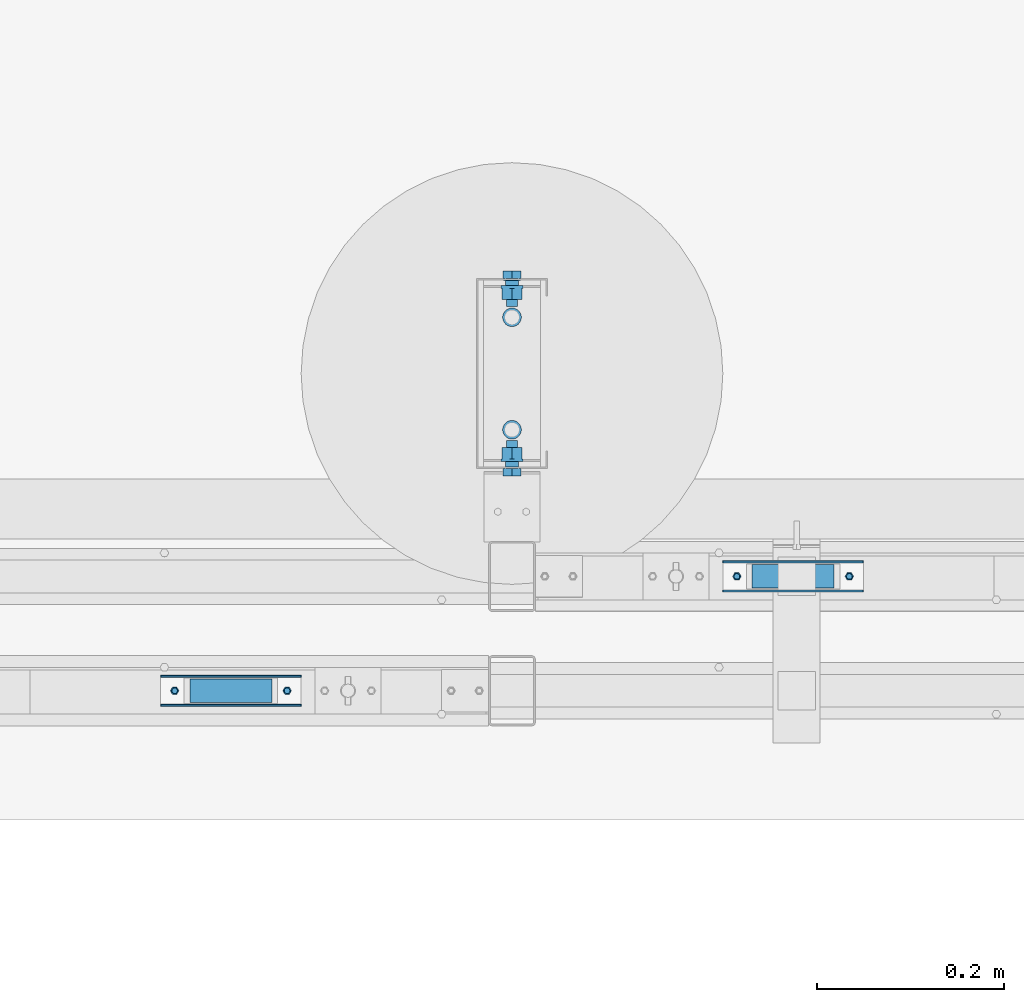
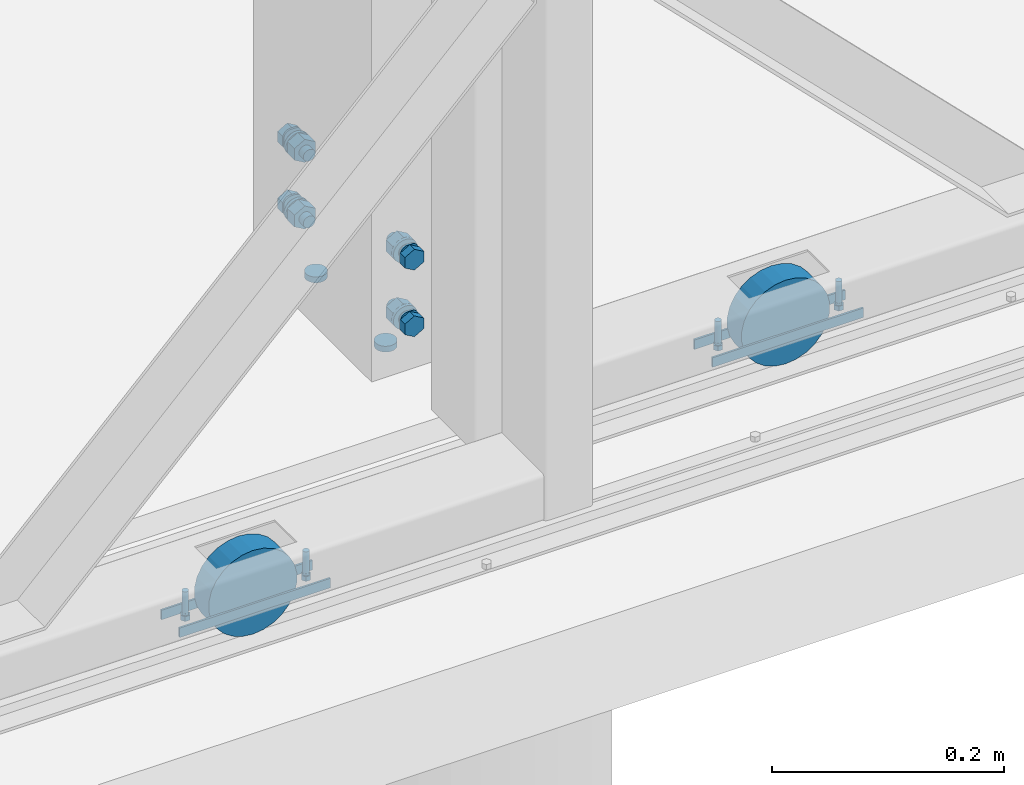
# One storey, part 19 of 91: 6 discrete accessories, 5 mechanical fasteners, 4 elements without a shape of their own.
"""IFC2X3 building model written with IfcOpenShell, lengths in millimetres."""

import ifcopenshell
import ifcopenshell.guid

model = None  # the IFC model being written
_history = None  # IfcOwnerHistory: only IFC2X3 demands one
_inside = {}  # id of a spatial element -> (the spatial element, [elements in it])
_under = {}  # id of a project, library or spatial element -> (it, [spatial elements below it])
_declared = {}  # id of a project -> (the project, [libraries it declares])
_typed = {}  # id of a type object -> (the type object, [elements of that type])
_made_of = {}  # id of a material, layer set ... -> (it, [elements and type objects made of it])


def new_model(schema):
    """Start an empty IFC model of exactly this schema.

    Asked for "IFC4X3", IfcOpenShell would pick the latest addendum, in which some entities
    have other attributes; the version numbers below select the first issue.
    IFC2X3 requires an IfcOwnerHistory on every rooted entity: one is made here for all.
    """
    global model, _history
    if schema == "IFC4X3":
        model = ifcopenshell.file(schema_version=(4, 3, 0, 0))
    else:
        model = ifcopenshell.file(schema=schema)
    _inside.clear()
    _under.clear()
    _declared.clear()
    _typed.clear()
    _made_of.clear()
    _history = None
    if model.schema == "IFC2X3":
        org = make("IfcOrganization", Name="unknown")
        user = make(
            "IfcPersonAndOrganization",
            ThePerson=make("IfcPerson", FamilyName="unknown"),
            TheOrganization=org,
        )
        app = make(
            "IfcApplication",
            ApplicationDeveloper=org,
            Version="unknown",
            ApplicationFullName="unknown",
            ApplicationIdentifier="unknown",
        )
        _history = make(
            "IfcOwnerHistory",
            OwningUser=user,
            OwningApplication=app,
            ChangeAction="ADDED",
            CreationDate=0,
        )
    return model


def make(cls, **values):
    """One entity of the class cls with the attributes given. An attribute that is None is left unset."""
    return model.create_entity(
        cls, **{name: value for name, value in values.items() if value is not None}
    )


def rooted(cls, **values):
    """An entity with a GlobalId (a new one), such as an element, a storey or a relation."""
    return make(cls, GlobalId=ifcopenshell.guid.new(), OwnerHistory=_history, **values)


def si_unit(unit_type, name, prefix=None):
    """IfcSIUnit, for example si_unit("LENGTHUNIT", "METRE", prefix="MILLI")."""
    return make("IfcSIUnit", UnitType=unit_type, Prefix=prefix, Name=name)


def assignment(units):
    """IfcUnitAssignment: the units of a project."""
    return None if units is None else make("IfcUnitAssignment", Units=units)


def point(xyz):
    """IfcCartesianPoint."""
    return None if xyz is None else make("IfcCartesianPoint", Coordinates=xyz)


def direction(xyz):
    """IfcDirection."""
    return None if xyz is None else make("IfcDirection", DirectionRatios=xyz)


def frame(location, z_axis=None, x_axis=None):
    """IfcAxis2Placement3D, a coordinate frame: its origin and axes. An axis left out is left unset."""
    return make(
        "IfcAxis2Placement3D",
        Location=point(location),
        Axis=direction(z_axis),
        RefDirection=direction(x_axis),
    )


def frame_2d(location, x_axis=None):
    """IfcAxis2Placement2D, a coordinate frame in the plane: its origin and x axis."""
    return make(
        "IfcAxis2Placement2D", Location=point(location), RefDirection=direction(x_axis)
    )


def origin_with_axes():
    """The frame at (0, 0, 0) with the z axis (0, 0, 1) and the x axis (1, 0, 0) written out."""
    return frame((0.0, 0.0, 0.0), z_axis=(0.0, 0.0, 1.0), x_axis=(1.0, 0.0, 0.0))


def origin_2d_with_axis():
    """The frame at (0, 0) in the plane with the x axis (1, 0) written out."""
    return frame_2d((0.0, 0.0), x_axis=(1.0, 0.0))


def place(relative_to, where):
    """IfcLocalPlacement: puts the frame where relative to a parent placement (None: the world)."""
    return make(
        "IfcLocalPlacement", PlacementRelTo=relative_to, RelativePlacement=where
    )


def context(
    kind, dimensions, precision=None, world=None, true_north=None, identifier=None
):
    """IfcGeometricRepresentationContext, for example the 3D "Model" context."""
    return make(
        "IfcGeometricRepresentationContext",
        ContextIdentifier=identifier,
        ContextType=kind,
        CoordinateSpaceDimension=dimensions,
        Precision=precision,
        WorldCoordinateSystem=world,
        TrueNorth=true_north,
    )


def subcontext(parent, identifier, kind, view, scale=None):
    """IfcGeometricRepresentationSubContext, for example "Body" below "Model"."""
    return make(
        "IfcGeometricRepresentationSubContext",
        ContextIdentifier=identifier,
        ContextType=kind,
        ParentContext=parent,
        TargetScale=scale,
        TargetView=view,
    )


def project(units=None, contexts=None):
    """IfcProject with its units and contexts."""
    return rooted(
        "IfcProject",
        Name="project",
        RepresentationContexts=contexts,
        UnitsInContext=assignment(units),
    )


def spatial(cls, under=None, at=None, **own):
    """A site, building, storey or space (cls), placed at a placement, below another one or the project."""
    s = rooted(cls, ObjectPlacement=at, **own)
    if under is not None:
        _under.setdefault(under.id(), (under, []))[1].append(s)
    return s


def polyline(points):
    """IfcPolyline through the points."""
    return make("IfcPolyline", Points=[point(p) for p in points])


def circle_curve(where, radius):
    """IfcCircle in the frame where."""
    return make("IfcCircle", Position=where, Radius=radius)


def parameter(value):
    """IfcParameterValue: where a trimmed curve begins or ends, as a parameter of its basis curve."""
    return model.create_entity("IfcParameterValue", value)


def trimmed(basis, trim1, trim2, sense, master):
    """IfcTrimmedCurve: the piece of a basis curve between two trims."""
    return make(
        "IfcTrimmedCurve",
        BasisCurve=basis,
        Trim1=trim1,
        Trim2=trim2,
        SenseAgreement=sense,
        MasterRepresentation=master,
    )


def segment(curve, same_sense, transition):
    """IfcCompositeCurveSegment."""
    return make(
        "IfcCompositeCurveSegment",
        Transition=transition,
        SameSense=same_sense,
        ParentCurve=curve,
    )


def composite_curve(segments, self_intersect=None):
    """IfcCompositeCurve: segments joined end to end."""
    return make("IfcCompositeCurve", Segments=segments, SelfIntersect=self_intersect)


def profile(cls, at=None, kind="AREA", **sizes):
    """A parametric profile (cls). Its sizes go by their IFC names, for example OverallWidth=200.0."""
    return make(cls, ProfileType=kind, Position=at, **sizes)


def circle(**sizes):
    """IfcCircleProfileDef."""
    return profile("IfcCircleProfileDef", **sizes)


def outline(outer, holes=None, kind="AREA"):
    """IfcArbitraryClosedProfileDef: a profile drawn as a closed curve; with holes, ...WithVoids."""
    if holes is None:
        return make("IfcArbitraryClosedProfileDef", ProfileType=kind, OuterCurve=outer)
    return make(
        "IfcArbitraryProfileDefWithVoids",
        ProfileType=kind,
        OuterCurve=outer,
        InnerCurves=holes,
    )


def extrude(swept, where, along, depth):
    """IfcExtrudedAreaSolid: the profile swept, set in the frame where, extruded along a direction by depth."""
    return make(
        "IfcExtrudedAreaSolid",
        SweptArea=swept,
        Position=where,
        ExtrudedDirection=direction(along),
        Depth=depth,
    )


def shape(context_of_items, identifier, shape_type, items):
    """IfcShapeRepresentation: the items that make up one representation, for example the "Body"."""
    return make(
        "IfcShapeRepresentation",
        ContextOfItems=context_of_items,
        RepresentationIdentifier=identifier,
        RepresentationType=shape_type,
        Items=items,
    )


def source(mapping_origin, context_of_items, identifier, shape_type, items):
    """IfcRepresentationMap: a shape defined once, which mapped items show again and again."""
    return make(
        "IfcRepresentationMap",
        MappingOrigin=mapping_origin,
        MappedRepresentation=shape(context_of_items, identifier, shape_type, items),
    )


def transform(
    local_origin,
    x_axis=None,
    y_axis=None,
    z_axis=None,
    scale=None,
    scale2=None,
    scale3=None,
    uniform=True,
):
    """IfcCartesianTransformationOperator3D, or its non-uniform kind. x_axis, y_axis, z_axis: its Axis1, 2, 3."""
    if uniform:
        return make(
            "IfcCartesianTransformationOperator3D",
            Axis1=direction(x_axis),
            Axis2=direction(y_axis),
            LocalOrigin=point(local_origin),
            Scale=scale,
            Axis3=direction(z_axis),
        )
    return make(
        "IfcCartesianTransformationOperator3DnonUniform",
        Axis1=direction(x_axis),
        Axis2=direction(y_axis),
        LocalOrigin=point(local_origin),
        Scale=scale,
        Axis3=direction(z_axis),
        Scale2=scale2,
        Scale3=scale3,
    )


def mapped(mapping_source, mapping_target):
    """IfcMappedItem: shows the shape of a source again, moved by a transform."""
    return make(
        "IfcMappedItem", MappingSource=mapping_source, MappingTarget=mapping_target
    )


def material(Name=None, Category=None):
    """IfcMaterial."""
    return make("IfcMaterial", Name=Name, Category=Category)


def made_of(thing, what):
    """Note that an element or type object is made of a material, layer set ...; save() writes the relation."""
    if what is not None:
        _made_of.setdefault(what.id(), (what, []))[1].append(thing)
    return thing


def type_object(cls, material=None, **own):
    """A type object (cls), such as IfcWallType, which elements share."""
    return made_of(rooted(cls, **own), material)


def element(
    cls,
    number,
    at=None,
    inside=None,
    cuts=None,
    type_object=None,
    material=None,
    context=None,
    identifier="Body",
    shape_type=None,
    held_by="IfcProductDefinitionShape",
    body=None,
    shapes=None,
    **own,
):
    """One element of the class cls, such as IfcWall. Its Tag is "e" and its number.

    at: its placement. inside: the storey or other place that contains it. cuts: it is an
    opening in that element (IfcRelVoidsElement). A single representation is given by context,
    identifier, shape_type and body (its items); several are given by shapes. held_by: the class
    of the entity that holds the representations. save() writes the other relations.
    """
    e = rooted(cls, Tag="e%d" % number, ObjectPlacement=at, **own)
    if body is not None:
        shapes = [shape(context, identifier, shape_type, body)]
    if shapes is not None:
        e.Representation = make(held_by, Representations=shapes)
    if inside is not None:
        _inside.setdefault(inside.id(), (inside, []))[1].append(e)
    if cuts is not None:
        rooted(
            "IfcRelVoidsElement", RelatingBuildingElement=cuts, RelatedOpeningElement=e
        )
    if type_object is not None:
        _typed.setdefault(type_object.id(), (type_object, []))[1].append(e)
    return made_of(e, material)


def aggregate(whole, parts):
    """IfcRelAggregates: a whole, such as a stair, and the parts it consists of."""
    return rooted("IfcRelAggregates", RelatingObject=whole, RelatedObjects=parts)


def save(model, path):
    """Write the relations noted so far, then the file.

    IfcRelAggregates (storeys below a building ...), IfcRelContainedInSpatialStructure (elements
    in a storey), IfcRelDefinesByType, IfcRelAssociatesMaterial and IfcRelDeclares: one each for
    every whole, place, type object, material and project.
    """
    for whole, parts in _under.values():
        aggregate(whole, parts)
    for where, things in _inside.values():
        rooted(
            "IfcRelContainedInSpatialStructure",
            RelatedElements=things,
            RelatingStructure=where,
        )
    for kind, things in _typed.values():
        rooted("IfcRelDefinesByType", RelatedObjects=things, RelatingType=kind)
    for what, things in _made_of.values():
        rooted("IfcRelAssociatesMaterial", RelatedObjects=things, RelatingMaterial=what)
    for by, libraries in _declared.values():
        rooted("IfcRelDeclares", RelatingContext=by, RelatedDefinitions=libraries)
    model.write(path)


model = new_model("IFC2X3")

# Units and contexts
model_context = context("Model", 3, precision=1e-05, world=origin_with_axes())
body_context = subcontext(model_context, "Body", "Model", "MODEL_VIEW")
ifc_project = project(units=[si_unit("LENGTHUNIT", "METRE", prefix="MILLI"), si_unit("AREAUNIT", "SQUARE_METRE"), si_unit("VOLUMEUNIT", "CUBIC_METRE"), si_unit("MASSUNIT", "GRAM", prefix="KILO"), si_unit("TIMEUNIT", "SECOND"), si_unit("PLANEANGLEUNIT", "RADIAN"), si_unit("SOLIDANGLEUNIT", "STERADIAN"), si_unit("THERMODYNAMICTEMPERATUREUNIT", "DEGREE_CELSIUS"), si_unit("LUMINOUSINTENSITYUNIT", "LUMEN")], contexts=[model_context])

# Site, building, storey
site_placement = place(None, origin_with_axes())
site = spatial("IfcSite", under=ifc_project, at=site_placement, Name="Undefined", CompositionType="ELEMENT")
building_placement = place(site_placement, origin_with_axes())
building = spatial("IfcBuilding", under=site, at=building_placement, Name="Undefined", CompositionType="ELEMENT")
storey_placement = place(building_placement, origin_with_axes())
storey = spatial("IfcBuildingStorey", under=building, at=storey_placement, Name="Undefined", CompositionType="ELEMENT", Elevation=0.0)

# Assembly, discrete accessories
assembly_1_placement = place(storey_placement, origin_with_axes())
assembly_1 = element("IfcElementAssembly", 1, at=assembly_1_placement, inside=storey, Name="PLATE", AssemblyPlace="NOTDEFINED", PredefinedType="RIGID_FRAME")
ifc_material_1 = material(Name="STEEL/250")
discrete_accessory_type_1 = type_object("IfcDiscreteAccessoryType", Name="PLATE")
discrete_accessory_1_placement = place(assembly_1_placement, frame((-110495.84, 87696.65, -19.0), z_axis=(0.0, -1.0, 0.0), x_axis=(0.0, 0.0, -1.0)))
discrete_accessory_1 = element("IfcDiscreteAccessory", 2, at=discrete_accessory_1_placement, type_object=discrete_accessory_type_1, material=ifc_material_1, Name="PLATE", ObjectType="PLT2*10", context=body_context, shape_type="SweptSolid", body=[
    extrude(outline(polyline([(0.0, 0.0), (10.0, 0.0), (10.0, 150.0), (0.0, 150.0), (0.0, 0.0)])), frame((0.0, 0.0, -1.0), z_axis=(0.0, 0.0, 1.0), x_axis=(1.0, 0.0, 0.0)), (0.0, 0.0, 1.0), 2.0),
])
discrete_accessory_2_placement = place(assembly_1_placement, frame((-110495.84, 87727.65, -19.0), z_axis=(0.0, -1.0, 0.0), x_axis=(0.0, 0.0, -1.0)))
discrete_accessory_2 = element("IfcDiscreteAccessory", 3, at=discrete_accessory_2_placement, type_object=discrete_accessory_type_1, material=ifc_material_1, Name="PLATE", ObjectType="PLT2*10", context=body_context, shape_type="SweptSolid", body=[
    extrude(outline(polyline([(0.0, 0.0), (10.0, 0.0), (10.0, 150.0), (0.0, 150.0), (0.0, 0.0)])), frame((0.0, 0.0, -1.0), z_axis=(0.0, 0.0, 1.0), x_axis=(1.0, 0.0, 0.0)), (0.0, 0.0, 1.0), 2.0),
])

assembly_2_placement = place(storey_placement, origin_with_axes())
assembly_2 = element("IfcElementAssembly", 4, at=assembly_2_placement, inside=storey, Name="PLATE", AssemblyPlace="NOTDEFINED", PredefinedType="RIGID_FRAME")
discrete_accessory_3_placement = place(assembly_2_placement, frame((-111095.84, 87574.65, -19.0), z_axis=(0.0, -1.0, 0.0), x_axis=(0.0, 0.0, -1.0)))
discrete_accessory_3 = element("IfcDiscreteAccessory", 5, at=discrete_accessory_3_placement, type_object=discrete_accessory_type_1, material=ifc_material_1, Name="PLATE", ObjectType="PLT2*10", context=body_context, shape_type="SweptSolid", body=[
    extrude(outline(polyline([(0.0, 0.0), (10.0, 0.0), (10.0, 150.0), (0.0, 150.0), (0.0, 0.0)])), frame((0.0, 0.0, -1.0), z_axis=(0.0, 0.0, 1.0), x_axis=(1.0, 0.0, 0.0)), (0.0, 0.0, 1.0), 2.0),
])
discrete_accessory_4_placement = place(assembly_2_placement, frame((-111095.84, 87605.65, -19.0), z_axis=(0.0, -1.0, 0.0), x_axis=(0.0, 0.0, -1.0)))
discrete_accessory_4 = element("IfcDiscreteAccessory", 6, at=discrete_accessory_4_placement, type_object=discrete_accessory_type_1, material=ifc_material_1, Name="PLATE", ObjectType="PLT2*10", context=body_context, shape_type="SweptSolid", body=[
    extrude(outline(polyline([(0.0, 0.0), (10.0, 0.0), (10.0, 150.0), (0.0, 150.0), (0.0, 0.0)])), frame((0.0, 0.0, -1.0), z_axis=(0.0, 0.0, 1.0), x_axis=(1.0, 0.0, 0.0)), (0.0, 0.0, 1.0), 2.0),
])

# Mechanical fastener
ifc_material_2 = material(Name="TEK_11TPIM")
discrete_accessory_type_2 = type_object("IfcDiscreteAccessoryType", Name="Bolt assembly")
shared_shape_1 = source(origin_with_axes(), body_context, "Body", "SweptSolid", [
    extrude(circle(Radius=3.0, at=origin_2d_with_axis()), frame((0.0, 0.0, 0.0), z_axis=(0.0, 1.0, 0.0), x_axis=(1.0, 0.0, 0.0)), (0.0, 0.0, 1.0), 2.1),
    extrude(outline(polyline([(4.61880215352, 0.0), (2.30940107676, 4.00000000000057), (-2.30940107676, 4.00000000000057), (-4.61880215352, 0.0), (-2.30940107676, -4.00000000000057), (2.30940107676, -4.00000000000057), (4.61880215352, 0.0)])), frame((0.0, -5.10000000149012, 0.0), z_axis=(0.0, 1.0, 0.0), x_axis=(1.0, 0.0, 0.0)), (0.0, 0.0, 1.0), 5.0),
    extrude(circle(Radius=3.0, at=origin_2d_with_axis()), frame((0.0, -0.100000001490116, 0.0), z_axis=(0.0, 1.0, 0.0), x_axis=(1.0, 0.0, 0.0)), (0.0, 0.0, 1.0), 25.0),
    extrude(circle(Radius=3.0, at=origin_2d_with_axis()), frame((0.0, -0.100000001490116, 0.0), z_axis=(0.0, 1.0, 0.0), x_axis=(1.0, 0.0, 0.0)), (0.0, 0.0, 1.0), 0.1),
    extrude(circle(Radius=3.0, at=origin_2d_with_axis()), frame((0.0, 2.00000000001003, 0.0), z_axis=(0.0, 1.0, 0.0), x_axis=(1.0, 0.0, 0.0)), (0.0, 0.0, 1.0), 0.1),
    extrude(outline(polyline([(3.46410161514, 0.0), (1.73205080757, 3.00000000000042), (-1.73205080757, 3.00000000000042), (-3.46410161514, 0.0), (-1.73205080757, -3.00000000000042), (1.73205080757, -3.00000000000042), (3.46410161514, 0.0)])), frame((0.0, 2.10000000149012, 0.0), z_axis=(0.0, 1.0, 0.0), x_axis=(1.0, 0.0, 0.0)), (0.0, 0.0, 1.0), 0.1),
])
mechanical_fastener_1_placement = place(assembly_1_placement, frame((-110360.84, 87712.15, -19.0), z_axis=(0.0, 1.0, 0.0), x_axis=(-1.0, 0.0, 0.0)))
mechanical_fastener_1 = element("IfcMechanicalFastener", 7, at=mechanical_fastener_1_placement, type_object=discrete_accessory_type_2, material=ifc_material_2, Name="Bolt assembly", NominalDiameter=6.0, NominalLength=25.0, context=body_context, shape_type="MappedRepresentation", body=[
    mapped(shared_shape_1, transform((0.0, 0.0, 0.0))),
    mapped(shared_shape_1, transform((120.0, 0.0, 0.0))),
])

mechanical_fastener_2_placement = place(assembly_2_placement, frame((-110960.84, 87590.15, -19.0), z_axis=(0.0, 1.0, 0.0), x_axis=(-1.0, 0.0, 0.0)))
mechanical_fastener_2 = element("IfcMechanicalFastener", 8, at=mechanical_fastener_2_placement, type_object=discrete_accessory_type_2, material=ifc_material_2, Name="Bolt assembly", NominalDiameter=6.0, NominalLength=25.0, context=body_context, shape_type="MappedRepresentation", body=[
    mapped(shared_shape_1, transform((0.0, 0.0, 0.0))),
    mapped(shared_shape_1, transform((120.0, 0.0, 0.0))),
])

# Assembly, mechanical fastener
assembly_3_placement = place(storey_placement, origin_with_axes())
assembly_3 = element("IfcElementAssembly", 9, at=assembly_3_placement, inside=storey, Name="BASEPLATE", AssemblyPlace="NOTDEFINED", PredefinedType="RIGID_FRAME")
ifc_material_3 = material(Name="8.8S")
shared_shape_2 = source(origin_with_axes(), body_context, "Body", "SweptSolid", [
    extrude(circle(Radius=10.0, at=origin_2d_with_axis()), frame((0.0, -5.0, 0.0), z_axis=(0.0, 1.0, 0.0), x_axis=(1.0, 0.0, 0.0)), (0.0, 0.0, 1.0), 6.1),
])
mechanical_fastener_3_placement = place(assembly_3_placement, frame((-110720.84, 87868.65, -31.0), z_axis=(-1.0, 0.0, 0.0), x_axis=(0.0, 1.0, 0.0)))
mechanical_fastener_3 = element("IfcMechanicalFastener", 10, at=mechanical_fastener_3_placement, type_object=discrete_accessory_type_2, material=ifc_material_3, Name="Bolt assembly", NominalDiameter=20.0, NominalLength=16.0, context=body_context, shape_type="MappedRepresentation", body=[
    mapped(shared_shape_2, transform((0.0, 0.0, 0.0))),
    mapped(shared_shape_2, transform((120.0, 0.0, 0.0))),
])
aggregate(assembly_3, [mechanical_fastener_3])

# Assembly, mechanical fasteners
assembly_4_placement = place(storey_placement, origin_with_axes())
assembly_4 = element("IfcElementAssembly", 11, at=assembly_4_placement, inside=storey, Name="COLUMN", AssemblyPlace="NOTDEFINED", PredefinedType="RIGID_FRAME")
shared_shape_3 = source(origin_with_axes(), body_context, "Body", "SweptSolid", [
    extrude(circle(Radius=7.0, at=origin_2d_with_axis()), frame((0.0, 4.79999999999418, 0.0), z_axis=(0.0, 1.0, 0.0), x_axis=(1.0, 0.0, 0.0)), (0.0, 0.0, 1.0), 6.1),
    extrude(outline(composite_curve([segment(polyline([(-4.0, 9.0), (4.0, 9.0)]), True, "CONTINUOUS"), segment(trimmed(circle_curve(frame_2d((4.0, 2.0), x_axis=(0.0, 1.0)), 7.0), [parameter(0.0)], [parameter(4.71238898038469)], False, "PARAMETER"), True, "CONTINUOUS"), segment(polyline([(11.0, 2.0), (11.0, -2.0)]), True, "CONTINUOUS"), segment(trimmed(circle_curve(frame_2d((4.0, -2.0), x_axis=(1.0, 0.0)), 7.0), [parameter(0.0)], [parameter(4.71238898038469)], False, "PARAMETER"), True, "CONTINUOUS"), segment(polyline([(4.0, -9.0), (-4.0, -9.0)]), True, "CONTINUOUS"), segment(trimmed(circle_curve(frame_2d((-4.0, -2.0), x_axis=(0.0, -1.0)), 7.0), [parameter(0.0)], [parameter(4.71238898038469)], False, "PARAMETER"), True, "CONTINUOUS"), segment(polyline([(-11.0, -2.0), (-11.0, 2.0)]), True, "CONTINUOUS"), segment(trimmed(circle_curve(frame_2d((-4.0, 2.0), x_axis=(-1.0, 0.0)), 7.0), [parameter(0.0)], [parameter(4.71238898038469)], False, "PARAMETER"), True, "DISCONTINUOUS")], self_intersect=False)), frame((0.0, 3.6, 0.0), z_axis=(0.0, 1.0, 0.0), x_axis=(1.0, 0.0, 0.0)), (0.0, 0.0, 1.0), 1.9),
    extrude(outline(polyline([(10.96965511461, 0.0), (5.484827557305, 9.50000000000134), (-5.484827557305, 9.50000000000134), (-10.96965511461, 0.0), (-5.484827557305, -9.50000000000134), (5.484827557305, -9.50000000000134), (10.96965511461, 0.0)])), frame((0.0, -4.5, 0.0), z_axis=(0.0, 1.0, 0.0), x_axis=(1.0, 0.0, 0.0)), (0.0, 0.0, 1.0), 8.0),
    extrude(circle(Radius=6.0, at=origin_2d_with_axis()), frame((0.0, 3.5, 0.0), z_axis=(0.0, 1.0, 0.0), x_axis=(1.0, 0.0, 0.0)), (0.0, 0.0, 1.0), 30.0),
    extrude(circle(Radius=12.0, at=origin_2d_with_axis()), frame((0.0, 10.9000000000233, 0.0), z_axis=(0.0, 1.0, 0.0), x_axis=(1.0, 0.0, 0.0)), (0.0, 0.0, 1.0), 3.1),
    extrude(outline(polyline([(12.12435565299, 0.0), (6.062177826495, 10.5000000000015), (-6.062177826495, 10.5000000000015), (-12.12435565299, 0.0), (-6.062177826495, -10.5000000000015), (6.062177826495, -10.5000000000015), (12.12435565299, 0.0)])), frame((0.0, 13.9999999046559, 0.0), z_axis=(0.0, 1.0, 0.0), x_axis=(1.0, 0.0, 0.0)), (0.0, 0.0, 1.0), 12.0),
])
mechanical_fastener_4_placement = place(assembly_4_placement, frame((-110720.84, 87823.65, 18.0), z_axis=(-1.0, 0.0, 0.0), x_axis=(0.0, 0.0, 1.0)))
mechanical_fastener_4 = element("IfcMechanicalFastener", 12, at=mechanical_fastener_4_placement, type_object=discrete_accessory_type_2, material=ifc_material_3, Name="Bolt assembly", NominalDiameter=12.0, NominalLength=30.0, context=body_context, shape_type="MappedRepresentation", body=[
    mapped(shared_shape_3, transform((0.0, 0.0, 0.0))),
    mapped(shared_shape_3, transform((70.0, 0.0, 0.0))),
])
shared_shape_4 = source(origin_with_axes(), body_context, "Body", "SweptSolid", [
    extrude(circle(Radius=7.0, at=origin_2d_with_axis()), frame((0.0, 4.79999999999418, 0.0), z_axis=(0.0, 1.0, 0.0), x_axis=(1.0, 0.0, 0.0)), (0.0, 0.0, 1.0), 6.1),
    extrude(outline(composite_curve([segment(polyline([(-4.0, 9.0), (4.0, 9.0)]), True, "CONTINUOUS"), segment(trimmed(circle_curve(frame_2d((4.0, 2.0), x_axis=(0.0, 1.0)), 7.0), [parameter(0.0)], [parameter(4.71238898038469)], False, "PARAMETER"), True, "CONTINUOUS"), segment(polyline([(11.0, 2.0), (11.0, -2.0)]), True, "CONTINUOUS"), segment(trimmed(circle_curve(frame_2d((4.0, -2.0), x_axis=(1.0, 0.0)), 7.0), [parameter(0.0)], [parameter(4.71238898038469)], False, "PARAMETER"), True, "CONTINUOUS"), segment(polyline([(4.0, -9.0), (-4.0, -9.0)]), True, "CONTINUOUS"), segment(trimmed(circle_curve(frame_2d((-4.0, -2.0), x_axis=(0.0, -1.0)), 7.0), [parameter(0.0)], [parameter(4.71238898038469)], False, "PARAMETER"), True, "CONTINUOUS"), segment(polyline([(-11.0, -2.0), (-11.0, 2.0)]), True, "CONTINUOUS"), segment(trimmed(circle_curve(frame_2d((-4.0, 2.0), x_axis=(-1.0, 0.0)), 7.0), [parameter(0.0)], [parameter(4.71238898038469)], False, "PARAMETER"), True, "DISCONTINUOUS")], self_intersect=False)), frame((0.0, 3.6, 0.0), z_axis=(0.0, 1.0, 0.0), x_axis=(1.0, 0.0, 0.0)), (0.0, 0.0, 1.0), 1.9),
    extrude(outline(polyline([(10.96965511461, 0.0), (5.484827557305, 9.50000000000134), (-5.484827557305, 9.50000000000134), (-10.96965511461, 0.0), (-5.484827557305, -9.50000000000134), (5.484827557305, -9.50000000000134), (10.96965511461, 0.0)])), frame((0.0, -4.5, 0.0), z_axis=(0.0, 1.0, 0.0), x_axis=(1.0, 0.0, 0.0)), (0.0, 0.0, 1.0), 8.0),
    extrude(circle(Radius=6.0, at=origin_2d_with_axis()), frame((0.0, 3.5, 0.0), z_axis=(0.0, 1.0, 0.0), x_axis=(1.0, 0.0, 0.0)), (0.0, 0.0, 1.0), 30.0),
    extrude(circle(Radius=12.0, at=origin_2d_with_axis()), frame((0.0, 10.9000000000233, 0.0), z_axis=(0.0, 1.0, 0.0), x_axis=(1.0, 0.0, 0.0)), (0.0, 0.0, 1.0), 3.1),
    extrude(outline(polyline([(12.12435565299, 0.0), (6.062177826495, 10.5000000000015), (-6.062177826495, 10.5000000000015), (-12.12435565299, 0.0), (-6.062177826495, -10.5000000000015), (6.062177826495, -10.5000000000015), (12.12435565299, 0.0)])), frame((0.0, 13.9999999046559, 0.0), z_axis=(0.0, 1.0, 0.0), x_axis=(1.0, 0.0, 0.0)), (0.0, 0.0, 1.0), 12.0),
])
mechanical_fastener_5_placement = place(assembly_4_placement, frame((-110720.84, 88033.65, 18.0), z_axis=(1.0, 0.0, 0.0), x_axis=(0.0, 0.0, 1.0)))
mechanical_fastener_5 = element("IfcMechanicalFastener", 13, at=mechanical_fastener_5_placement, type_object=discrete_accessory_type_2, material=ifc_material_3, Name="Bolt assembly", NominalDiameter=12.0, NominalLength=30.0, context=body_context, shape_type="MappedRepresentation", body=[
    mapped(shared_shape_4, transform((0.0, 0.0, 0.0))),
    mapped(shared_shape_4, transform((70.0, 0.0, 0.0))),
])
aggregate(assembly_4, [mechanical_fastener_4, mechanical_fastener_5])

# Discrete accessory
discrete_accessory_type_3 = type_object("IfcDiscreteAccessoryType", Name="DOOR ROLLER")
discrete_accessory_5_placement = place(assembly_1_placement, frame((-110420.84, 87724.6509765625, -10.0), z_axis=(1.0, 0.0, 0.0), x_axis=(0.0, -1.0, 0.0)))
discrete_accessory_5 = element("IfcDiscreteAccessory", 14, at=discrete_accessory_5_placement, type_object=discrete_accessory_type_3, material=ifc_material_1, Name="DOOR ROLLER", ObjectType="D88", context=body_context, shape_type="SweptSolid", body=[
    extrude(circle(Radius=44.0, at=origin_2d_with_axis()), frame((25.0, 0.0, 0.0), z_axis=(-1.0, 0.0, 0.0), x_axis=(0.0, -1.0, 0.0)), (0.0, 0.0, 1.0), 25.0),
])

aggregate(assembly_1, [mechanical_fastener_1, discrete_accessory_1, discrete_accessory_2, discrete_accessory_5])

discrete_accessory_6_placement = place(assembly_2_placement, frame((-111020.84, 87602.6509765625, -10.0), z_axis=(1.0, 0.0, 0.0), x_axis=(0.0, -1.0, 0.0)))
discrete_accessory_6 = element("IfcDiscreteAccessory", 15, at=discrete_accessory_6_placement, type_object=discrete_accessory_type_3, material=ifc_material_1, Name="DOOR ROLLER", ObjectType="D88", context=body_context, shape_type="SweptSolid", body=[
    extrude(circle(Radius=44.0, at=origin_2d_with_axis()), frame((25.0, 0.0, 0.0), z_axis=(-1.0, 0.0, 0.0), x_axis=(0.0, -1.0, 0.0)), (0.0, 0.0, 1.0), 25.0),
])

aggregate(assembly_2, [mechanical_fastener_2, discrete_accessory_3, discrete_accessory_4, discrete_accessory_6])

save(model, "model.ifc")
